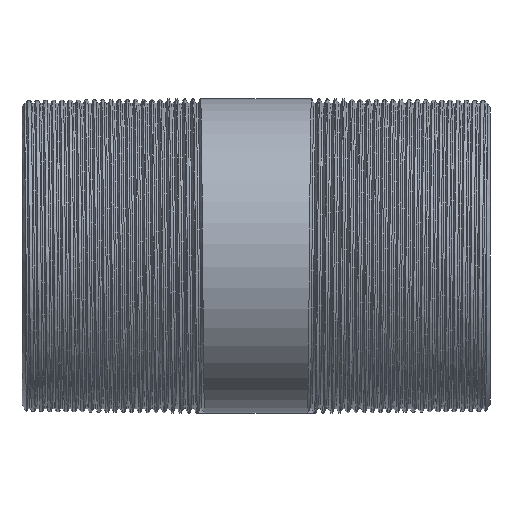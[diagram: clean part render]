
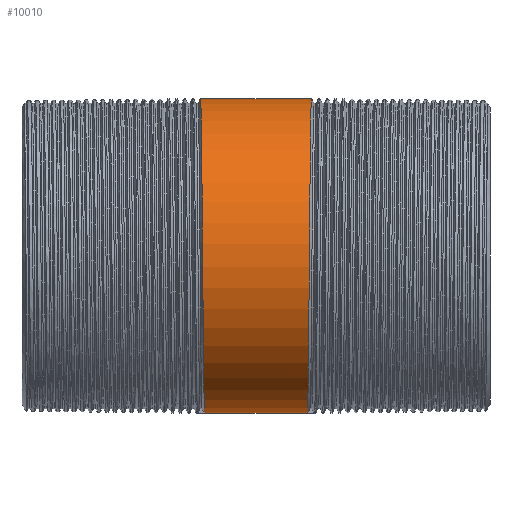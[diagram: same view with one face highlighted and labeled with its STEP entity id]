
A CAD part, front view. The second image highlights one B-rep face of the part: STEP entity #10010.
In plain terms, the highlighted cylindrical face has radius 13.45 mm (diameter 26.9 mm), a partial arc.
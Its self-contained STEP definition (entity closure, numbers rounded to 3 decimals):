
#121 = EDGE_CURVE ( 'NONE', #699, #4723, #15214, .T. ) ;
#277 = EDGE_CURVE ( 'NONE', #4723, #4973, #12042, .T. ) ;
#312 = CARTESIAN_POINT ( 'NONE',  ( 4.738, 0., 13.45 ) ) ;
#360 = CARTESIAN_POINT ( 'NONE',  ( -4.388, 0., -13.45 ) ) ;
#484 = CARTESIAN_POINT ( 'NONE',  ( 4.504, -11.648, -6.725 ) ) ;
#590 = CARTESIAN_POINT ( 'NONE',  ( -4.738, 0., 13.45 ) ) ;
#699 = VERTEX_POINT ( 'NONE', #1113 ) ;
#703 = EDGE_CURVE ( 'NONE', #699, #4544, #3343, .T. ) ;
#1113 = CARTESIAN_POINT ( 'NONE',  ( 4.388, 0., -13.45 ) ) ;
#1883 = ORIENTED_EDGE ( 'NONE', *, *, #703, .F. ) ;
#1930 = CARTESIAN_POINT ( 'NONE',  ( 4.621, -11.648, 6.725 ) ) ;
#2068 = CARTESIAN_POINT ( 'NONE',  ( -4.738, 0., 13.45 ) ) ;
#2175 = AXIS2_PLACEMENT_3D ( 'NONE', #5044, #8604, #2644 ) ;
#2644 = DIRECTION ( 'NONE',  ( 0., 0., 1. ) ) ;
#3343 = LINE ( 'NONE', #5977, #10028 ) ;
#3854 = CARTESIAN_POINT ( 'NONE',  ( -149.494, 0., 13.45 ) ) ;
#3950 = CARTESIAN_POINT ( 'NONE',  ( -4.563, -15.531, 0. ) ) ;
#4154 = CARTESIAN_POINT ( 'NONE',  ( 4.388, 0., -13.45 ) ) ;
#4317 = CARTESIAN_POINT ( 'NONE',  ( 4.446, -7.765, -13.45 ) ) ;
#4544 = VERTEX_POINT ( 'NONE', #5037 ) ;
#4723 = VERTEX_POINT ( 'NONE', #312 ) ;
#4973 = VERTEX_POINT ( 'NONE', #2068 ) ;
#5037 = CARTESIAN_POINT ( 'NONE',  ( -4.388, 0., -13.45 ) ) ;
#5044 = CARTESIAN_POINT ( 'NONE',  ( -149.494, 0., 0. ) ) ;
#5977 = CARTESIAN_POINT ( 'NONE',  ( -149.494, 0., -13.45 ) ) ;
#6522 = ORIENTED_EDGE ( 'NONE', *, *, #7163, .F. ) ;
#6782 = CARTESIAN_POINT ( 'NONE',  ( 4.563, -15.531, 0. ) ) ;
#7163 = EDGE_CURVE ( 'NONE', #4544, #4973, #10784, .T. ) ;
#7497 = CYLINDRICAL_SURFACE ( 'NONE', #2175, 13.45 ) ;
#7909 = ORIENTED_EDGE ( 'NONE', *, *, #277, .T. ) ;
#8190 = EDGE_LOOP ( 'NONE', ( #1883, #14390, #7909, #6522 ) ) ;
#8604 = DIRECTION ( 'NONE',  ( -1., 0., 0. ) ) ;
#8855 = CARTESIAN_POINT ( 'NONE',  ( -4.446, -7.765, -13.45 ) ) ;
#10010 = ADVANCED_FACE ( 'NONE', ( #14627 ), #7497, .T. ) ;
#10028 = VECTOR ( 'NONE', #11833, 1000. ) ;
#10508 = CARTESIAN_POINT ( 'NONE',  ( 4.679, -7.765, 13.45 ) ) ;
#10784 =( BOUNDED_CURVE ( )  B_SPLINE_CURVE ( 2, ( #360, #8855, #11175, #3950, #14959, #11246, #590 ),
 .UNSPECIFIED., .F., .F. ) 
 B_SPLINE_CURVE_WITH_KNOTS ( ( 3, 2, 2, 3 ),
 ( 0., 0.007, 0.014, 0.022 ),
 .UNSPECIFIED. ) 
 CURVE ( )  GEOMETRIC_REPRESENTATION_ITEM ( )  RATIONAL_B_SPLINE_CURVE ( ( 1., 0.866, 1., 0.866, 1., 0.866, 1. ) ) 
 REPRESENTATION_ITEM ( '' )  );
#11175 = CARTESIAN_POINT ( 'NONE',  ( -4.504, -11.648, -6.725 ) ) ;
#11246 = CARTESIAN_POINT ( 'NONE',  ( -4.679, -7.765, 13.45 ) ) ;
#11833 = DIRECTION ( 'NONE',  ( -1., 0., 0. ) ) ;
#12042 = LINE ( 'NONE', #3854, #13105 ) ;
#12122 = DIRECTION ( 'NONE',  ( -1., 0., 0. ) ) ;
#13105 = VECTOR ( 'NONE', #12122, 1000. ) ;
#14390 = ORIENTED_EDGE ( 'NONE', *, *, #121, .T. ) ;
#14627 = FACE_OUTER_BOUND ( 'NONE', #8190, .T. ) ;
#14959 = CARTESIAN_POINT ( 'NONE',  ( -4.621, -11.648, 6.725 ) ) ;
#15092 = CARTESIAN_POINT ( 'NONE',  ( 4.738, 0., 13.45 ) ) ;
#15214 =( BOUNDED_CURVE ( )  B_SPLINE_CURVE ( 2, ( #4154, #4317, #484, #6782, #1930, #10508, #15092 ),
 .UNSPECIFIED., .F., .F. ) 
 B_SPLINE_CURVE_WITH_KNOTS ( ( 3, 2, 2, 3 ),
 ( 0., 0.007, 0.014, 0.022 ),
 .UNSPECIFIED. ) 
 CURVE ( )  GEOMETRIC_REPRESENTATION_ITEM ( )  RATIONAL_B_SPLINE_CURVE ( ( 1., 0.866, 1., 0.866, 1., 0.866, 1. ) ) 
 REPRESENTATION_ITEM ( '' )  );
